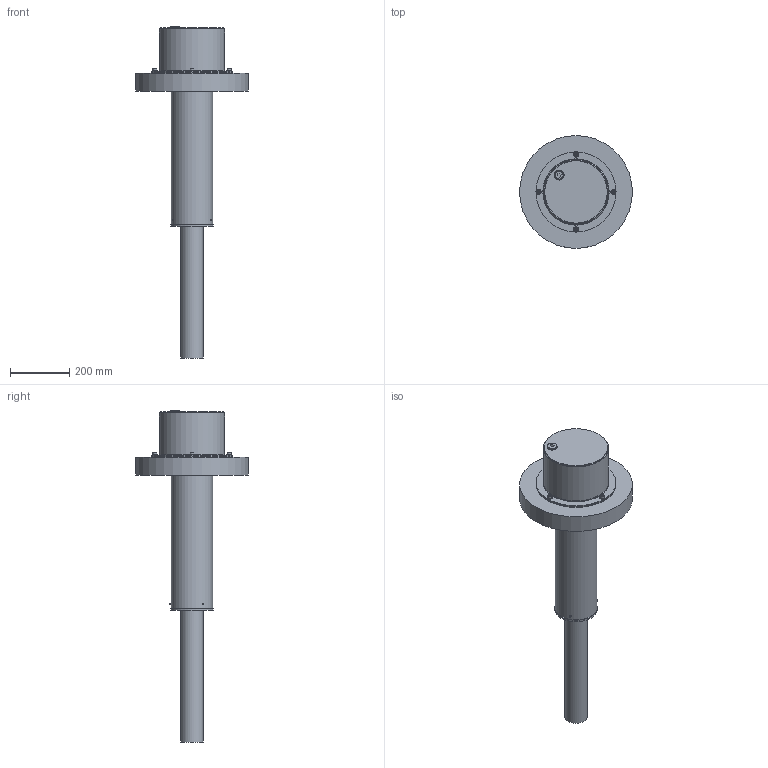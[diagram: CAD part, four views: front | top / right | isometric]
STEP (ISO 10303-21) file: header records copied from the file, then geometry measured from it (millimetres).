
FILE_DESCRIPTION(/* description */ (''),/* implementation_level */ '2;1');
FILE_NAME(/* name */ 'C:\Users\glowak\Vault\CAD-Daten\Konstruktion\02b. Geotechnik\ETA-16-0262 Ankerköpfe\Dauer\standard\ETA-16-0262.K.012.80 Dauer (standard) L12 - Schutzhaube.stp',/* time_stamp */ '2024-05-21T14:51:16+02:00',/* author */ ('gpetri'),/* organization */ (''),/* preprocessor_version */ 'ST-DEVELOPER v18.1',/* originating_system */ 'Autodesk Inventor 2021',/* authorisation */ '');
FILE_SCHEMA (('AUTOMOTIVE_DESIGN { 1 0 10303 214 3 1 1 }'));
Length unit declared in the file: millimetre
Products named in the file (1): ETA-16-0262.K.012.80 Dauer (standard) L12 - Schutzhaube_Shrinkwrap_1
Bounding box: 380 x 380 x 1118 mm (x, y, z)
Volume: 17630366.2 mm3; surface area: 1156683 mm2
Topology: 24 solids, 24 shells, 172 faces, 347 edges, 228 vertices
Faces by surface type: plane 101, cylinder 33, cone 29, torus 9
Full cylindrical faces by diameter (mm): 6 x3, 8 x4, 13 x4, 16 x4, 26.441 x1, 32 x1, 33 x1, 75 x1, 89 x1, 129.2 x1, 139.7 x1, 143.2 x1, 210 x1, 210.1 x1, 215 x2, 219.1 x3, 270 x2, 380 x1
Entity records: 4696 total; most frequent: CARTESIAN_POINT 845, DIRECTION 758, ORIENTED_EDGE 676, EDGE_CURVE 338, AXIS2_PLACEMENT_3D 300, VERTEX_POINT 228, EDGE_LOOP 196, STYLED_ITEM 196
